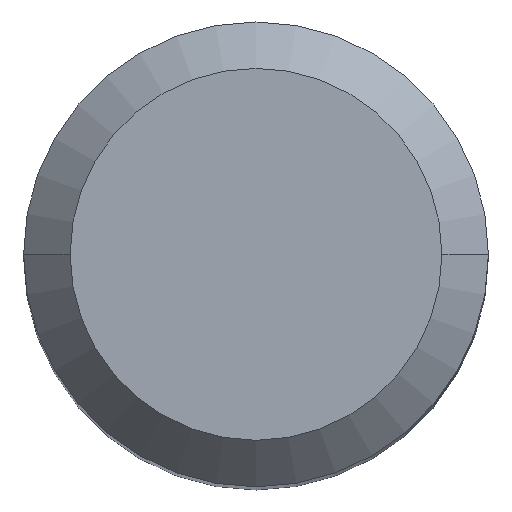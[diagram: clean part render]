
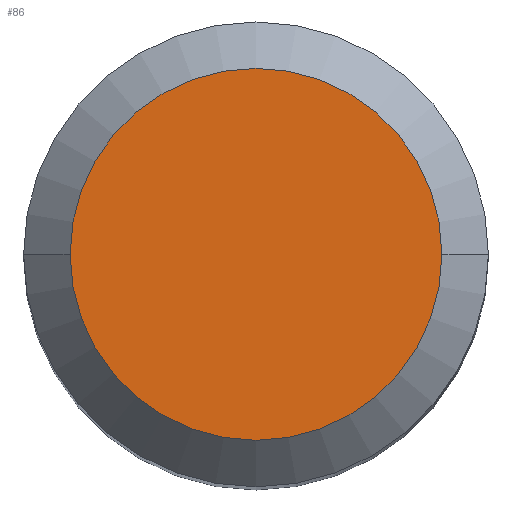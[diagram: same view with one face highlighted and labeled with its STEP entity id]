
A CAD part, top view. The second image highlights one B-rep face of the part: STEP entity #86.
In plain terms, the highlighted planar face has unit normal (0, 0, 1).
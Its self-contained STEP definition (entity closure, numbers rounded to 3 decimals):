
#4 = AXIS2_PLACEMENT_3D ( 'NONE', #336, #291, #26 ) ;
#5 = CIRCLE ( 'NONE', #182, 4. ) ;
#26 = DIRECTION ( 'NONE',  ( 1., 0., 0. ) ) ;
#47 = CARTESIAN_POINT ( 'NONE',  ( -4., 0., 0. ) ) ;
#65 = CARTESIAN_POINT ( 'NONE',  ( 0., 0., 0. ) ) ;
#83 = EDGE_CURVE ( 'NONE', #289, #251, #102, .T. ) ;
#86 = ADVANCED_FACE ( 'NONE', ( #230 ), #413, .T. ) ;
#102 = CIRCLE ( 'NONE', #484, 4. ) ;
#103 = ORIENTED_EDGE ( 'NONE', *, *, #83, .F. ) ;
#118 = CARTESIAN_POINT ( 'NONE',  ( 0., 0., 0. ) ) ;
#164 = DIRECTION ( 'NONE',  ( -1., 0., 0. ) ) ;
#169 = EDGE_LOOP ( 'NONE', ( #103, #343 ) ) ;
#182 = AXIS2_PLACEMENT_3D ( 'NONE', #118, #382, #164 ) ;
#224 = DIRECTION ( 'NONE',  ( -1., 0., 0. ) ) ;
#230 = FACE_OUTER_BOUND ( 'NONE', #169, .T. ) ;
#251 = VERTEX_POINT ( 'NONE', #311 ) ;
#266 = DIRECTION ( 'NONE',  ( 0., 0., -1. ) ) ;
#289 = VERTEX_POINT ( 'NONE', #47 ) ;
#291 = DIRECTION ( 'NONE',  ( 0., 0., 1. ) ) ;
#311 = CARTESIAN_POINT ( 'NONE',  ( 4., 0., 0. ) ) ;
#336 = CARTESIAN_POINT ( 'NONE',  ( 0., 4., 0. ) ) ;
#343 = ORIENTED_EDGE ( 'NONE', *, *, #419, .F. ) ;
#382 = DIRECTION ( 'NONE',  ( 0., 0., -1. ) ) ;
#413 = PLANE ( 'NONE',  #4 ) ;
#419 = EDGE_CURVE ( 'NONE', #251, #289, #5, .T. ) ;
#484 = AXIS2_PLACEMENT_3D ( 'NONE', #65, #266, #224 ) ;
